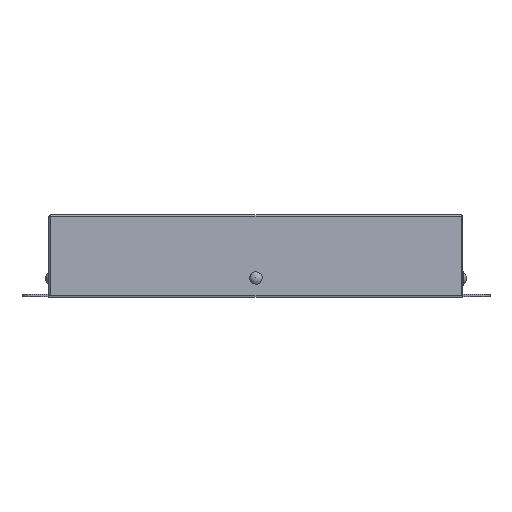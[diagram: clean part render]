
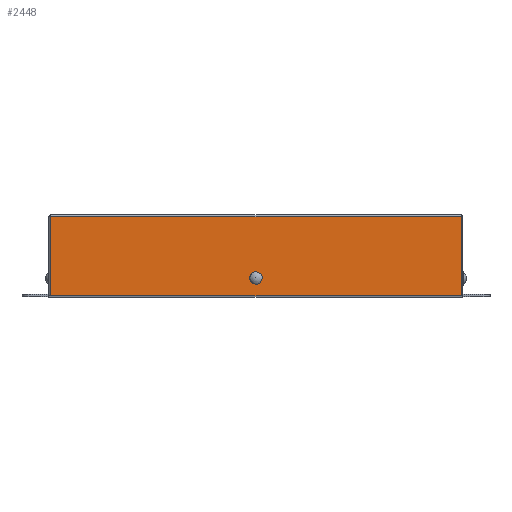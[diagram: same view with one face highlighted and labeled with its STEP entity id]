
A CAD part, top view. The second image highlights one B-rep face of the part: STEP entity #2448.
In plain terms, the highlighted planar face has unit normal (0, 0, 1).
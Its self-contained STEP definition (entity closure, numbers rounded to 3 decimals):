
#159 = LINE ( 'NONE', #1537, #255 ) ;
#204 = CARTESIAN_POINT ( 'NONE',  ( 114., 44., 165. ) ) ;
#255 = VECTOR ( 'NONE', #1303, 1000. ) ;
#265 = LINE ( 'NONE', #1156, #1204 ) ;
#269 = LINE ( 'NONE', #1825, #795 ) ;
#285 = VERTEX_POINT ( 'NONE', #503 ) ;
#461 = EDGE_LOOP ( 'NONE', ( #579, #549, #2324, #1255 ) ) ;
#479 = DIRECTION ( 'NONE',  ( 0., 0., 1. ) ) ;
#503 = CARTESIAN_POINT ( 'NONE',  ( 114., 0., 165. ) ) ;
#549 = ORIENTED_EDGE ( 'NONE', *, *, #1108, .T. ) ;
#579 = ORIENTED_EDGE ( 'NONE', *, *, #1536, .T. ) ;
#733 = EDGE_CURVE ( 'NONE', #2584, #1604, #265, .T. ) ;
#795 = VECTOR ( 'NONE', #1810, 1000. ) ;
#976 = EDGE_CURVE ( 'NONE', #2556, #2556, #1700, .T. ) ;
#1053 = CARTESIAN_POINT ( 'NONE',  ( 0., 10., 165. ) ) ;
#1108 = EDGE_CURVE ( 'NONE', #285, #2584, #2750, .T. ) ;
#1156 = CARTESIAN_POINT ( 'NONE',  ( -115., 44., 165. ) ) ;
#1193 = FACE_BOUND ( 'NONE', #2248, .T. ) ;
#1204 = VECTOR ( 'NONE', #2297, 1000. ) ;
#1240 = CARTESIAN_POINT ( 'NONE',  ( -3.45, 10., 165. ) ) ;
#1245 = DIRECTION ( 'NONE',  ( 0., 0., -1. ) ) ;
#1255 = ORIENTED_EDGE ( 'NONE', *, *, #2339, .T. ) ;
#1303 = DIRECTION ( 'NONE',  ( 0., -1., 0. ) ) ;
#1329 = FACE_OUTER_BOUND ( 'NONE', #461, .T. ) ;
#1385 = CARTESIAN_POINT ( 'NONE',  ( -114., 0., 165. ) ) ;
#1478 = CARTESIAN_POINT ( 'NONE',  ( 114., 44., 165. ) ) ;
#1536 = EDGE_CURVE ( 'NONE', #2225, #285, #269, .T. ) ;
#1537 = CARTESIAN_POINT ( 'NONE',  ( -114., 44., 165. ) ) ;
#1597 = PLANE ( 'NONE',  #2754 ) ;
#1604 = VERTEX_POINT ( 'NONE', #2528 ) ;
#1700 = CIRCLE ( 'NONE', #2791, 3.45 ) ;
#1794 = CARTESIAN_POINT ( 'NONE',  ( 0., 44., 165. ) ) ;
#1810 = DIRECTION ( 'NONE',  ( 1., 0., 0. ) ) ;
#1825 = CARTESIAN_POINT ( 'NONE',  ( -115., 0., 165. ) ) ;
#1989 = VECTOR ( 'NONE', #2096, 1000. ) ;
#2096 = DIRECTION ( 'NONE',  ( 0., 1., 0. ) ) ;
#2144 = DIRECTION ( 'NONE',  ( -1., 0., 0. ) ) ;
#2225 = VERTEX_POINT ( 'NONE', #1385 ) ;
#2248 = EDGE_LOOP ( 'NONE', ( #2550 ) ) ;
#2297 = DIRECTION ( 'NONE',  ( -1., 0., 0. ) ) ;
#2324 = ORIENTED_EDGE ( 'NONE', *, *, #733, .T. ) ;
#2339 = EDGE_CURVE ( 'NONE', #1604, #2225, #159, .T. ) ;
#2448 = ADVANCED_FACE ( 'NONE', ( #1193, #1329 ), #1597, .T. ) ;
#2528 = CARTESIAN_POINT ( 'NONE',  ( -114., 44., 165. ) ) ;
#2550 = ORIENTED_EDGE ( 'NONE', *, *, #976, .T. ) ;
#2556 = VERTEX_POINT ( 'NONE', #1240 ) ;
#2584 = VERTEX_POINT ( 'NONE', #1478 ) ;
#2726 = DIRECTION ( 'NONE',  ( 0., -1., 0. ) ) ;
#2750 = LINE ( 'NONE', #204, #1989 ) ;
#2754 = AXIS2_PLACEMENT_3D ( 'NONE', #1794, #479, #2726 ) ;
#2791 = AXIS2_PLACEMENT_3D ( 'NONE', #1053, #1245, #2144 ) ;
